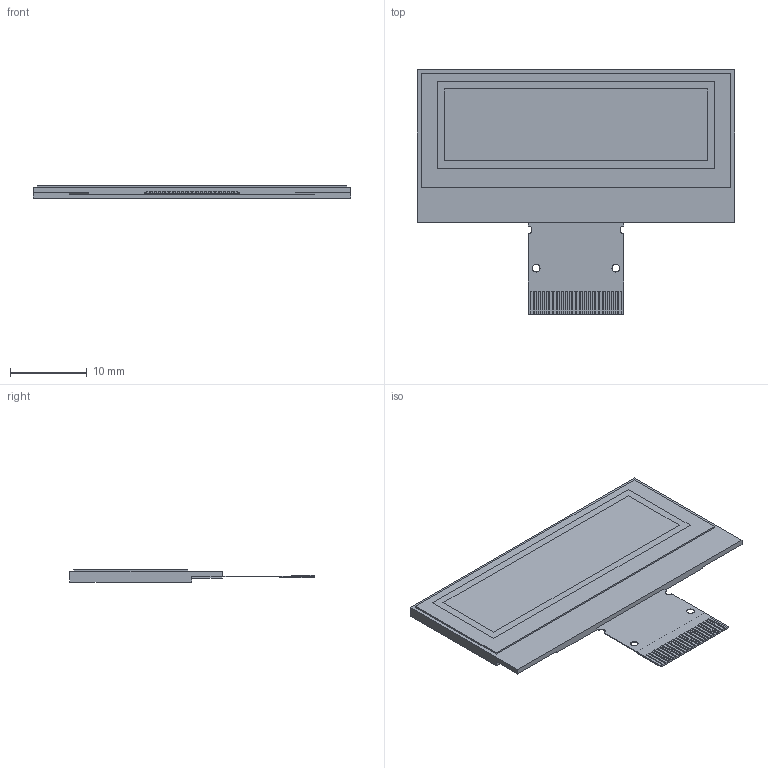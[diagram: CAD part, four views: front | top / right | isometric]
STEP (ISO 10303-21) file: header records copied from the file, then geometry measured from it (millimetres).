
FILE_DESCRIPTION (( 'STEP AP203' ), '1' );
FILE_NAME ('NHD-0216MW-AB3.STEP', '2023-07-12T21:40:38', ( '' ), ( '' ), 'SwSTEP 2.0', 'SolidWorks 2019', '' );
FILE_SCHEMA (( 'CONFIG_CONTROL_DESIGN' ));
Length unit declared in the file: millimetre
Products named in the file (1): NHD-0216MW-AB3
Bounding box: 41.4 x 31.9 x 1.6 mm (x, y, z)
Volume: 1350.9 mm3; surface area: 3660.1 mm2
Topology: 3 solids, 3 shells, 141 faces, 399 edges, 266 vertices
Faces by surface type: plane 134, cylinder 7
Entity records: 4568 total; most frequent: CARTESIAN_POINT 807, ORIENTED_EDGE 798, DIRECTION 697, EDGE_CURVE 399, LINE 385, VECTOR 385, VERTEX_POINT 266, AXIS2_PLACEMENT_3D 156
